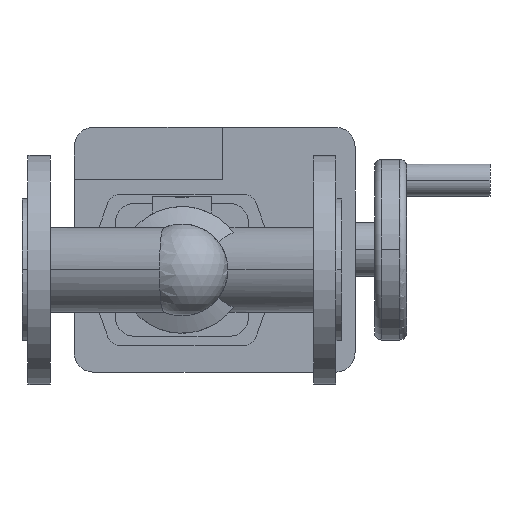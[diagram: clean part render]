
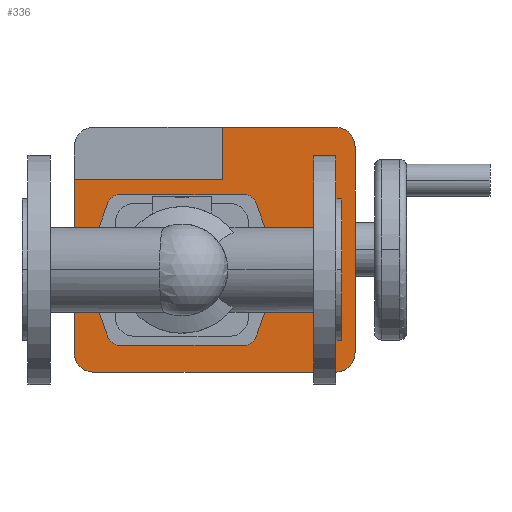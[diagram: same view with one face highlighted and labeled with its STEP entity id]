
A CAD part, front view. The second image highlights one B-rep face of the part: STEP entity #336.
In plain terms, the highlighted planar face has unit normal (0, -1, 0).
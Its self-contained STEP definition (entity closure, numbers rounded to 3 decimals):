
#336 = ADVANCED_FACE( '', ( #812, #813 ), #814, .F. );
#812 = FACE_BOUND( '', #1289, .T. );
#813 = FACE_OUTER_BOUND( '', #1290, .T. );
#814 = PLANE( '', #1291 );
#1289 = EDGE_LOOP( '', ( #2978, #2979, #2980, #2981, #2982, #2983, #2984, #2985 ) );
#1290 = EDGE_LOOP( '', ( #2986, #2987, #2988, #2989, #2990, #2991, #2992, #2993, #2994 ) );
#1291 = AXIS2_PLACEMENT_3D( '', #2995, #2996, #2997 );
#2978 = ORIENTED_EDGE( '', *, *, #3475, .T. );
#2979 = ORIENTED_EDGE( '', *, *, #3479, .T. );
#2980 = ORIENTED_EDGE( '', *, *, #3482, .T. );
#2981 = ORIENTED_EDGE( '', *, *, #3485, .T. );
#2982 = ORIENTED_EDGE( '', *, *, #3488, .T. );
#2983 = ORIENTED_EDGE( '', *, *, #3491, .T. );
#2984 = ORIENTED_EDGE( '', *, *, #3494, .T. );
#2985 = ORIENTED_EDGE( '', *, *, #3496, .T. );
#2986 = ORIENTED_EDGE( '', *, *, #3503, .T. );
#2987 = ORIENTED_EDGE( '', *, *, #3510, .F. );
#2988 = ORIENTED_EDGE( '', *, *, #3518, .F. );
#2989 = ORIENTED_EDGE( '', *, *, #3521, .F. );
#2990 = ORIENTED_EDGE( '', *, *, #3524, .F. );
#2991 = ORIENTED_EDGE( '', *, *, #3527, .F. );
#2992 = ORIENTED_EDGE( '', *, *, #3529, .F. );
#2993 = ORIENTED_EDGE( '', *, *, #3513, .F. );
#2994 = ORIENTED_EDGE( '', *, *, #3506, .T. );
#2995 = CARTESIAN_POINT( '', ( 115., 558., 0. ) );
#2996 = DIRECTION( '', ( 0., 1., 0. ) );
#2997 = DIRECTION( '', ( 0., 0., 1. ) );
#3475 = EDGE_CURVE( '', #4327, #4325, #4328, .T. );
#3479 = EDGE_CURVE( '', #4325, #4332, #4334, .T. );
#3482 = EDGE_CURVE( '', #4332, #4337, #4339, .T. );
#3485 = EDGE_CURVE( '', #4337, #4342, #4344, .T. );
#3488 = EDGE_CURVE( '', #4342, #4347, #4349, .T. );
#3491 = EDGE_CURVE( '', #4347, #4352, #4354, .T. );
#3494 = EDGE_CURVE( '', #4352, #4357, #4359, .T. );
#3496 = EDGE_CURVE( '', #4357, #4327, #4361, .T. );
#3503 = EDGE_CURVE( '', #4374, #4372, #4375, .T. );
#3506 = EDGE_CURVE( '', #4377, #4374, #4379, .T. );
#3510 = EDGE_CURVE( '', #4384, #4372, #4386, .T. );
#3513 = EDGE_CURVE( '', #4377, #4390, #4391, .T. );
#3518 = EDGE_CURVE( '', #4397, #4384, #4399, .T. );
#3521 = EDGE_CURVE( '', #4402, #4397, #4404, .T. );
#3524 = EDGE_CURVE( '', #4407, #4402, #4409, .T. );
#3527 = EDGE_CURVE( '', #4412, #4407, #4414, .T. );
#3529 = EDGE_CURVE( '', #4390, #4412, #4416, .T. );
#4325 = VERTEX_POINT( '', #5945 );
#4327 = VERTEX_POINT( '', #5948 );
#4328 = CIRCLE( '', #5949, 9. );
#4332 = VERTEX_POINT( '', #5955 );
#4334 = LINE( '', #5958, #5959 );
#4337 = VERTEX_POINT( '', #5962 );
#4339 = CIRCLE( '', #5965, 9. );
#4342 = VERTEX_POINT( '', #5968 );
#4344 = CIRCLE( '', #5971, 116. );
#4347 = VERTEX_POINT( '', #5974 );
#4349 = CIRCLE( '', #5977, 9. );
#4352 = VERTEX_POINT( '', #5981 );
#4354 = LINE( '', #5984, #5985 );
#4357 = VERTEX_POINT( '', #5988 );
#4359 = CIRCLE( '', #5991, 9. );
#4361 = CIRCLE( '', #5993, 116. );
#4372 = VERTEX_POINT( '', #6008 );
#4374 = VERTEX_POINT( '', #6011 );
#4375 = LINE( '', #6012, #6013 );
#4377 = VERTEX_POINT( '', #6016 );
#4379 = LINE( '', #6019, #6020 );
#4384 = VERTEX_POINT( '', #6027 );
#4386 = LINE( '', #6030, #6031 );
#4390 = VERTEX_POINT( '', #6036 );
#4391 = LINE( '', #6037, #6038 );
#4397 = VERTEX_POINT( '', #6046 );
#4399 = CIRCLE( '', #6049, 14. );
#4402 = VERTEX_POINT( '', #6053 );
#4404 = LINE( '', #6056, #6057 );
#4407 = VERTEX_POINT( '', #6060 );
#4409 = CIRCLE( '', #6063, 14. );
#4412 = VERTEX_POINT( '', #6067 );
#4414 = LINE( '', #6070, #6071 );
#4416 = CIRCLE( '', #6073, 14. );
#5945 = CARTESIAN_POINT( '', ( 70.216, 558., 54.2 ) );
#5948 = CARTESIAN_POINT( '', ( 62.058, 558., 49.002 ) );
#5949 = AXIS2_PLACEMENT_3D( '', #6971, #6972, #6973 );
#5955 = CARTESIAN_POINT( '', ( 159.784, 558., 54.2 ) );
#5958 = CARTESIAN_POINT( '', ( 92.608, 558., 54.2 ) );
#5959 = VECTOR( '', #6977, 1. );
#5962 = CARTESIAN_POINT( '', ( 167.942, 558., 49.002 ) );
#5965 = AXIS2_PLACEMENT_3D( '', #6982, #6983, #6984 );
#5968 = CARTESIAN_POINT( '', ( 167.942, 558., -49.002 ) );
#5971 = AXIS2_PLACEMENT_3D( '', #6989, #6990, #6991 );
#5974 = CARTESIAN_POINT( '', ( 159.784, 558., -54.2 ) );
#5977 = AXIS2_PLACEMENT_3D( '', #6996, #6997, #6998 );
#5981 = CARTESIAN_POINT( '', ( 70.216, 558., -54.2 ) );
#5984 = CARTESIAN_POINT( '', ( 115., 558., -54.2 ) );
#5985 = VECTOR( '', #7001, 1. );
#5988 = CARTESIAN_POINT( '', ( 62.058, 558., -49.002 ) );
#5991 = AXIS2_PLACEMENT_3D( '', #7006, #7007, #7008 );
#5993 = AXIS2_PLACEMENT_3D( '', #7012, #7013, #7014 );
#6008 = CARTESIAN_POINT( '', ( 37.5, 558., 65. ) );
#6011 = CARTESIAN_POINT( '', ( 144., 558., 65. ) );
#6012 = CARTESIAN_POINT( '', ( 75.75, 558., 65. ) );
#6013 = VECTOR( '', #7023, 1. );
#6016 = CARTESIAN_POINT( '', ( 144., 558., 102.5 ) );
#6019 = CARTESIAN_POINT( '', ( 144., 558., 32.5 ) );
#6020 = VECTOR( '', #7026, 1. );
#6027 = CARTESIAN_POINT( '', ( 37.5, 558., -59.5 ) );
#6030 = CARTESIAN_POINT( '', ( 37.5, 558., -59.5 ) );
#6031 = VECTOR( '', #7030, 1. );
#6036 = CARTESIAN_POINT( '', ( 225.5, 558., 102.5 ) );
#6037 = CARTESIAN_POINT( '', ( 51.5, 558., 102.5 ) );
#6038 = VECTOR( '', #7035, 1. );
#6046 = CARTESIAN_POINT( '', ( 51.5, 558., -73.5 ) );
#6049 = AXIS2_PLACEMENT_3D( '', #7042, #7043, #7044 );
#6053 = CARTESIAN_POINT( '', ( 225.5, 558., -73.5 ) );
#6056 = CARTESIAN_POINT( '', ( 225.5, 558., -73.5 ) );
#6057 = VECTOR( '', #7047, 1. );
#6060 = CARTESIAN_POINT( '', ( 239.5, 558., -59.5 ) );
#6063 = AXIS2_PLACEMENT_3D( '', #7052, #7053, #7054 );
#6067 = CARTESIAN_POINT( '', ( 239.5, 558., 88.5 ) );
#6070 = CARTESIAN_POINT( '', ( 239.5, 558., 88.5 ) );
#6071 = VECTOR( '', #7057, 1. );
#6073 = AXIS2_PLACEMENT_3D( '', #7061, #7062, #7063 );
#6971 = CARTESIAN_POINT( '', ( 70.216, 558., 45.2 ) );
#6972 = DIRECTION( '', ( 0., 1., 0. ) );
#6973 = DIRECTION( '', ( -0.906, 0., 0.422 ) );
#6977 = DIRECTION( '', ( 1., 0., 0. ) );
#6982 = CARTESIAN_POINT( '', ( 159.784, 558., 45.2 ) );
#6983 = DIRECTION( '', ( 0., 1., 0. ) );
#6984 = DIRECTION( '', ( 0., 0., 1. ) );
#6989 = CARTESIAN_POINT( '', ( 62.8, 558., 0. ) );
#6990 = DIRECTION( '', ( 0., 1., 0. ) );
#6991 = DIRECTION( '', ( 0.906, 0., 0.422 ) );
#6996 = CARTESIAN_POINT( '', ( 159.784, 558., -45.2 ) );
#6997 = DIRECTION( '', ( 0., 1., 0. ) );
#6998 = DIRECTION( '', ( 0.906, 0., -0.422 ) );
#7001 = DIRECTION( '', ( -1., 0., 0. ) );
#7006 = CARTESIAN_POINT( '', ( 70.216, 558., -45.2 ) );
#7007 = DIRECTION( '', ( 0., 1., 0. ) );
#7008 = DIRECTION( '', ( 0., 0., -1. ) );
#7012 = CARTESIAN_POINT( '', ( 167.2, 558., 0. ) );
#7013 = DIRECTION( '', ( 0., 1., 0. ) );
#7014 = DIRECTION( '', ( -0.906, 0., -0.422 ) );
#7023 = DIRECTION( '', ( -1., 0., 0. ) );
#7026 = DIRECTION( '', ( 0., 0., -1. ) );
#7030 = DIRECTION( '', ( 0., 0., 1. ) );
#7035 = DIRECTION( '', ( 1., 0., 0. ) );
#7042 = CARTESIAN_POINT( '', ( 51.5, 558., -59.5 ) );
#7043 = DIRECTION( '', ( 0., 1., 0. ) );
#7044 = DIRECTION( '', ( 0., 0., -1. ) );
#7047 = DIRECTION( '', ( -1., 0., 0. ) );
#7052 = CARTESIAN_POINT( '', ( 225.5, 558., -59.5 ) );
#7053 = DIRECTION( '', ( 0., 1., 0. ) );
#7054 = DIRECTION( '', ( 1., 0., 0. ) );
#7057 = DIRECTION( '', ( 0., 0., -1. ) );
#7061 = CARTESIAN_POINT( '', ( 225.5, 558., 88.5 ) );
#7062 = DIRECTION( '', ( 0., 1., 0. ) );
#7063 = DIRECTION( '', ( 0., 0., 1. ) );
